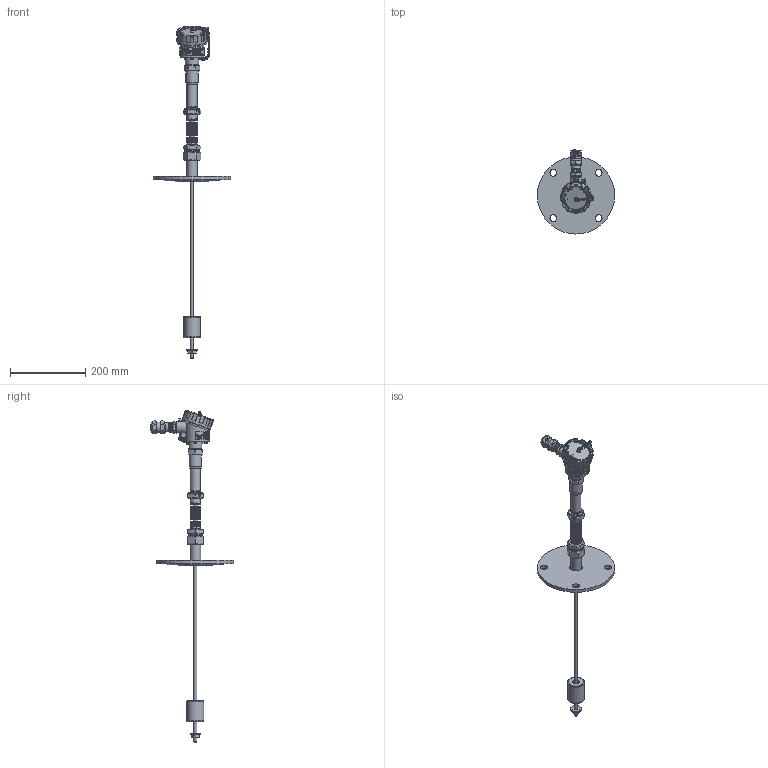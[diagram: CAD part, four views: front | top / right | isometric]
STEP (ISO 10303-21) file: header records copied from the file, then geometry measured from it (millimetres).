
FILE_DESCRIPTION(('STEP AP203'), '1');
FILE_NAME('ﾓﾏﾌ-51_ﾌ2_Exd_ﾀﾃ-24_DN-1-100-06-ﾂ-10-08-470-388-ﾀ1-45-ﾊﾂﾌ15ﾂﾍ', '', ('UNSPECIFIED'), ('UNSPECIFIED'), 'C3D Converter', 'C3D Toolkit', '');
FILE_SCHEMA(('CONFIG_CONTROL_DESIGN'));
Length unit declared in the file: millimetre
Bounding box: 205 x 222.8 x 881.49 mm (x, y, z)
Volume: 687960.6 mm3; surface area: 305202.3 mm2
Topology: 65 solids, 66 shells, 7932 faces, 21780 edges, 14577 vertices
Faces by surface type: bspline 3809, plane 2934, cylinder 874, torus 194, cone 116, sphere 5
Full cylindrical faces by diameter (mm): 1 x114, 2 x5, 2.459 x1, 2.85 x1, 3 x2, 3.242 x12, 4 x10, 4.134 x1, 4.5 x2, 4.917 x3, 5 x1, 5.3 x2, 5.5 x2, 6 x3, 6.5 x2, 7 x2, 7.4 x1, 7.7 x1, 8 x11, 8.1 x1, 8.5 x2, 9 x4, 9.6 x1, 10 x8, 12 x1, 13.5 x2, 14 x12, 15 x1, 15.2 x2, 15.5 x1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
Entity records: 695178 total; most frequent: CARTESIAN_POINT 492283, ORIENTED_EDGE 42406, DIRECTION 21855, EDGE_CURVE 21203, VERTEX_POINT 14554, B_SPLINE_CURVE_WITH_KNOTS 11247, EDGE_LOOP 9181, FACE_BOUND 8667
